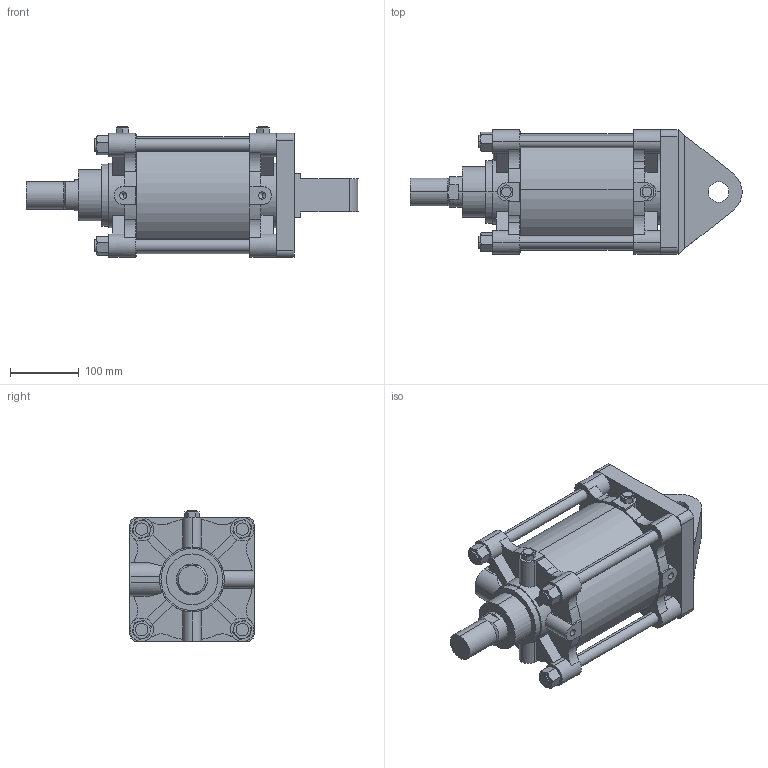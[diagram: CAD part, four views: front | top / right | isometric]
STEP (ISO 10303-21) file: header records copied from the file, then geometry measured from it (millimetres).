
FILE_DESCRIPTION (( 'STEP AP203' ), '1' );
FILE_NAME ('A##2-160#-100-C.STEP', '2016-03-31T06:55:48', ( '' ), ( '' ), 'SwSTEP 2.0', 'SolidWorks 2014', '' );
FILE_SCHEMA (( 'CONFIG_CONTROL_DESIGN' ));
Length unit declared in the file: millimetre
Products named in the file (7): A160-B; A##2-160#-100-C; A160-A; A160-100; A160-C
Assembly tree (12 placements, depth 2):
  A##2-160#-100-C
    A160-B
    A160-100
    A160-A
    (unnamed)  x4
    (unnamed)  x4
    A160-C
Bounding box: 481.89 x 180 x 190 mm (x, y, z)
Volume: 7142952.3 mm3; surface area: 567367.3 mm2
Topology: 12 solids, 14 shells, 355 faces, 912 edges, 586 vertices
Faces by surface type: plane 182, cylinder 133, torus 24, cone 16
Entity records: 10617 total; most frequent: CARTESIAN_POINT 2172, DIRECTION 1668, ORIENTED_EDGE 1548, EDGE_CURVE 774, AXIS2_PLACEMENT_3D 638, VERTEX_POINT 508, VECTOR 392, LINE 392
